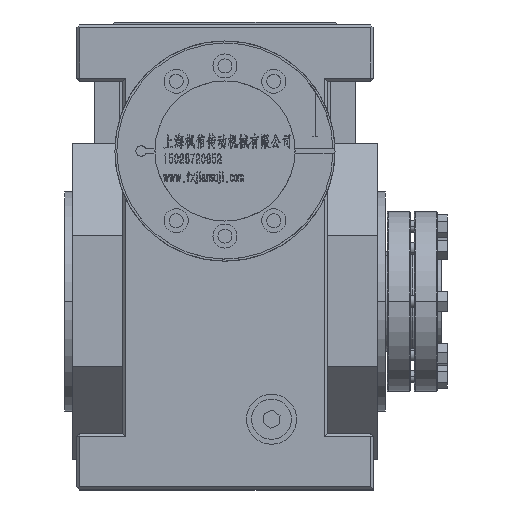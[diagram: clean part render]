
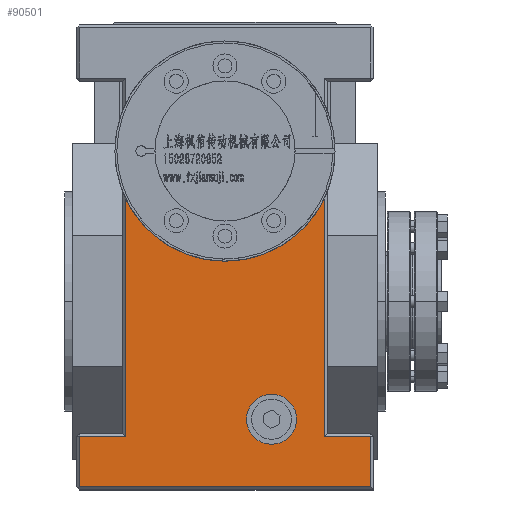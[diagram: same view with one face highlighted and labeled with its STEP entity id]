
A CAD part, top view. The second image highlights one B-rep face of the part: STEP entity #90501.
In plain terms, the highlighted planar face has unit normal (0, 0, 1).
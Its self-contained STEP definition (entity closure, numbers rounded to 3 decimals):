
#311 = CARTESIAN_POINT ( 'NONE',  ( 74., -67.5, 104. ) ) ;
#897 = DIRECTION ( 'NONE',  ( -1., 0., 0. ) ) ;
#1045 = ORIENTED_EDGE ( 'NONE', *, *, #110874, .T. ) ;
#5100 = LINE ( 'NONE', #112226, #115484 ) ;
#5338 = DIRECTION ( 'NONE',  ( 1., 0., 0. ) ) ;
#5688 = FACE_BOUND ( 'NONE', #33855, .T. ) ;
#6121 = EDGE_CURVE ( 'NONE', #66937, #27321, #5100, .T. ) ;
#6237 = AXIS2_PLACEMENT_3D ( 'NONE', #104768, #8689, #5338 ) ;
#7534 = AXIS2_PLACEMENT_3D ( 'NONE', #26954, #15754, #71905 ) ;
#8647 = DIRECTION ( 'NONE',  ( -1., 0., 0. ) ) ;
#8689 = DIRECTION ( 'NONE',  ( 0., 0., 1. ) ) ;
#9963 = VERTEX_POINT ( 'NONE', #48213 ) ;
#10188 = CIRCLE ( 'NONE', #99100, 12.5 ) ;
#13196 = CIRCLE ( 'NONE', #7534, 55. ) ;
#15754 = DIRECTION ( 'NONE',  ( 0., 0., 1. ) ) ;
#15826 = LINE ( 'NONE', #61944, #19526 ) ;
#18780 = CARTESIAN_POINT ( 'NONE',  ( -49.5, -67.5, 104. ) ) ;
#19526 = VECTOR ( 'NONE', #8647, 1000. ) ;
#20123 = VECTOR ( 'NONE', #101911, 1000. ) ;
#21308 = CARTESIAN_POINT ( 'NONE',  ( -72.5, -92.5, 104. ) ) ;
#23812 = EDGE_CURVE ( 'NONE', #38166, #40565, #34649, .T. ) ;
#25244 = FACE_OUTER_BOUND ( 'NONE', #47804, .T. ) ;
#25888 = VERTEX_POINT ( 'NONE', #72299 ) ;
#26954 = CARTESIAN_POINT ( 'NONE',  ( 0., 75., 104. ) ) ;
#27321 = VERTEX_POINT ( 'NONE', #93984 ) ;
#27436 = LINE ( 'NONE', #71807, #112106 ) ;
#28945 = CARTESIAN_POINT ( 'NONE',  ( 23.262, -59., 104. ) ) ;
#33855 = EDGE_LOOP ( 'NONE', ( #84889, #54127 ) ) ;
#34106 = DIRECTION ( 'NONE',  ( -1., 0., 0. ) ) ;
#34144 = EDGE_CURVE ( 'NONE', #47231, #25888, #102634, .T. ) ;
#34649 = LINE ( 'NONE', #70729, #62508 ) ;
#38013 = CARTESIAN_POINT ( 'NONE',  ( -49.5, -66., 104. ) ) ;
#38129 = VECTOR ( 'NONE', #65425, 1000. ) ;
#38166 = VERTEX_POINT ( 'NONE', #59326 ) ;
#38747 = EDGE_CURVE ( 'NONE', #25888, #47231, #10188, .T. ) ;
#39634 = ORIENTED_EDGE ( 'NONE', *, *, #107975, .F. ) ;
#40565 = VERTEX_POINT ( 'NONE', #93510 ) ;
#44787 = AXIS2_PLACEMENT_3D ( 'NONE', #113992, #96251, #34106 ) ;
#45933 = CARTESIAN_POINT ( 'NONE',  ( 74., -92.5, 104. ) ) ;
#47231 = VERTEX_POINT ( 'NONE', #74105 ) ;
#47276 = DIRECTION ( 'NONE',  ( 1., 0., 0. ) ) ;
#47804 = EDGE_LOOP ( 'NONE', ( #1045, #72576, #108754, #56706, #39634, #93558, #75008, #85432 ) ) ;
#48213 = CARTESIAN_POINT ( 'NONE',  ( -49.5, 51.026, 104. ) ) ;
#54127 = ORIENTED_EDGE ( 'NONE', *, *, #34144, .F. ) ;
#56706 = ORIENTED_EDGE ( 'NONE', *, *, #6121, .T. ) ;
#59326 = CARTESIAN_POINT ( 'NONE',  ( 72.5, -92.5, 104. ) ) ;
#61944 = CARTESIAN_POINT ( 'NONE',  ( -74., -67.5, 104. ) ) ;
#62508 = VECTOR ( 'NONE', #96803, 1000. ) ;
#63875 = CARTESIAN_POINT ( 'NONE',  ( 49.5, -67.5, 104. ) ) ;
#64588 = VERTEX_POINT ( 'NONE', #87913 ) ;
#65026 = DIRECTION ( 'NONE',  ( 0., 0., 1. ) ) ;
#65425 = DIRECTION ( 'NONE',  ( 1., 0., 0. ) ) ;
#66937 = VERTEX_POINT ( 'NONE', #63875 ) ;
#66964 = LINE ( 'NONE', #38013, #20123 ) ;
#70729 = CARTESIAN_POINT ( 'NONE',  ( 72.5, -66., 104. ) ) ;
#71557 = EDGE_CURVE ( 'NONE', #101863, #64588, #15826, .T. ) ;
#71807 = CARTESIAN_POINT ( 'NONE',  ( -72.5, 138., 104. ) ) ;
#71905 = DIRECTION ( 'NONE',  ( 0., 1., 0. ) ) ;
#72299 = CARTESIAN_POINT ( 'NONE',  ( 35.762, -59., 104. ) ) ;
#72576 = ORIENTED_EDGE ( 'NONE', *, *, #23812, .T. ) ;
#74105 = CARTESIAN_POINT ( 'NONE',  ( 10.762, -59., 104. ) ) ;
#75008 = ORIENTED_EDGE ( 'NONE', *, *, #71557, .T. ) ;
#77294 = LINE ( 'NONE', #311, #112612 ) ;
#82754 = EDGE_CURVE ( 'NONE', #64588, #109513, #27436, .T. ) ;
#84889 = ORIENTED_EDGE ( 'NONE', *, *, #38747, .F. ) ;
#85432 = ORIENTED_EDGE ( 'NONE', *, *, #82754, .T. ) ;
#85616 = DIRECTION ( 'NONE',  ( 0., 1., 0. ) ) ;
#86992 = EDGE_CURVE ( 'NONE', #40565, #66937, #77294, .T. ) ;
#87913 = CARTESIAN_POINT ( 'NONE',  ( -72.5, -67.5, 104. ) ) ;
#89955 = EDGE_CURVE ( 'NONE', #9963, #101863, #66964, .T. ) ;
#90501 = ADVANCED_FACE ( 'NONE', ( #5688, #25244 ), #115139, .F. ) ;
#93264 = LINE ( 'NONE', #45933, #38129 ) ;
#93510 = CARTESIAN_POINT ( 'NONE',  ( 72.5, -67.5, 104. ) ) ;
#93558 = ORIENTED_EDGE ( 'NONE', *, *, #89955, .T. ) ;
#93984 = CARTESIAN_POINT ( 'NONE',  ( 49.5, 51.026, 104. ) ) ;
#96251 = DIRECTION ( 'NONE',  ( 0., 0., -1. ) ) ;
#96803 = DIRECTION ( 'NONE',  ( 0., 1., 0. ) ) ;
#99100 = AXIS2_PLACEMENT_3D ( 'NONE', #28945, #65026, #47276 ) ;
#101863 = VERTEX_POINT ( 'NONE', #18780 ) ;
#101911 = DIRECTION ( 'NONE',  ( 0., -1., 0. ) ) ;
#102634 = CIRCLE ( 'NONE', #6237, 12.5 ) ;
#104768 = CARTESIAN_POINT ( 'NONE',  ( 23.262, -59., 104. ) ) ;
#107892 = DIRECTION ( 'NONE',  ( 0., -1., 0. ) ) ;
#107975 = EDGE_CURVE ( 'NONE', #9963, #27321, #13196, .T. ) ;
#108754 = ORIENTED_EDGE ( 'NONE', *, *, #86992, .T. ) ;
#109513 = VERTEX_POINT ( 'NONE', #21308 ) ;
#110874 = EDGE_CURVE ( 'NONE', #109513, #38166, #93264, .T. ) ;
#112106 = VECTOR ( 'NONE', #107892, 1000. ) ;
#112226 = CARTESIAN_POINT ( 'NONE',  ( 49.5, 54.409, 104. ) ) ;
#112612 = VECTOR ( 'NONE', #897, 1000. ) ;
#113992 = CARTESIAN_POINT ( 'NONE',  ( 74., 138., 104. ) ) ;
#115139 = PLANE ( 'NONE',  #44787 ) ;
#115484 = VECTOR ( 'NONE', #85616, 1000. ) ;
